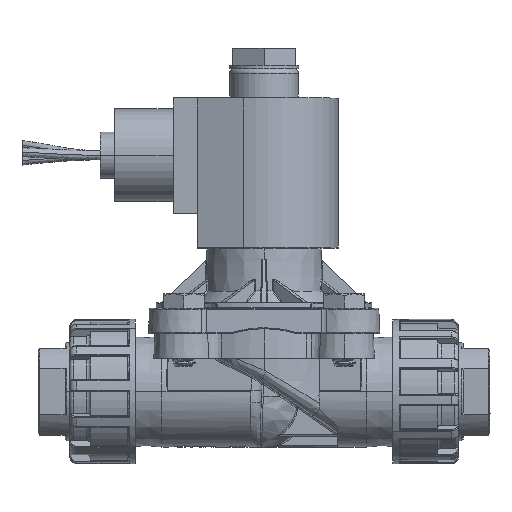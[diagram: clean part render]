
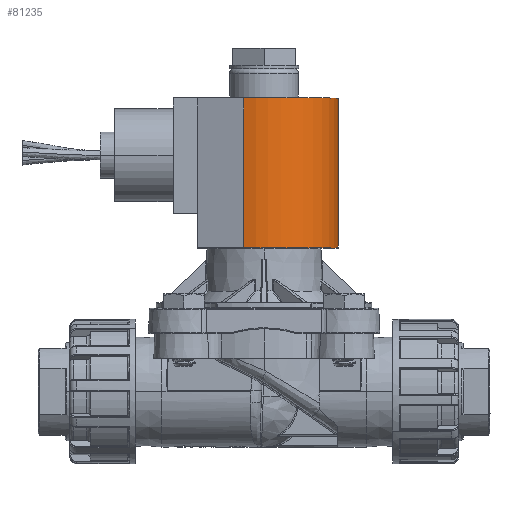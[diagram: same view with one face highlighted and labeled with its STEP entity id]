
A CAD part, top view. The second image highlights one B-rep face of the part: STEP entity #81235.
In plain terms, the highlighted cylindrical face has radius 20.32 mm (diameter 40.64 mm), a partial arc.
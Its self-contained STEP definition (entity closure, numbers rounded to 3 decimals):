
#1865 = CYLINDRICAL_SURFACE ( 'NONE', #83786, 20.32 ) ;
#15405 = VERTEX_POINT ( 'NONE', #102335 ) ;
#20391 = CARTESIAN_POINT ( 'NONE',  ( -5.608, 32.36, 19.531 ) ) ;
#20938 = VECTOR ( 'NONE', #121064, 1000. ) ;
#21469 = LINE ( 'NONE', #59014, #79648 ) ;
#24372 = ORIENTED_EDGE ( 'NONE', *, *, #90494, .T. ) ;
#27194 = DIRECTION ( 'NONE',  ( 0., 1., 0. ) ) ;
#28754 = CARTESIAN_POINT ( 'NONE',  ( -5.608, 73.508, 19.531 ) ) ;
#29236 = EDGE_CURVE ( 'NONE', #58485, #96644, #93342, .T. ) ;
#32490 = AXIS2_PLACEMENT_3D ( 'NONE', #111510, #27194, #66558 ) ;
#32933 = AXIS2_PLACEMENT_3D ( 'NONE', #64295, #64901, #37844 ) ;
#35087 = EDGE_CURVE ( 'NONE', #45284, #15405, #21469, .T. ) ;
#37844 = DIRECTION ( 'NONE',  ( -1., 0., 0. ) ) ;
#42916 = FACE_OUTER_BOUND ( 'NONE', #89869, .T. ) ;
#45284 = VERTEX_POINT ( 'NONE', #84930 ) ;
#47245 = ORIENTED_EDGE ( 'NONE', *, *, #29236, .T. ) ;
#48656 = CIRCLE ( 'NONE', #32933, 20.32 ) ;
#58485 = VERTEX_POINT ( 'NONE', #120046 ) ;
#59014 = CARTESIAN_POINT ( 'NONE',  ( 20.32, 73.508, 0. ) ) ;
#64295 = CARTESIAN_POINT ( 'NONE',  ( 0., 32.36, 0. ) ) ;
#64901 = DIRECTION ( 'NONE',  ( 0., 1., 0. ) ) ;
#66558 = DIRECTION ( 'NONE',  ( -1., 0., 0. ) ) ;
#68305 = DIRECTION ( 'NONE',  ( 1., 0., 0. ) ) ;
#68918 = CARTESIAN_POINT ( 'NONE',  ( 0., 73.508, 0. ) ) ;
#79648 = VECTOR ( 'NONE', #87933, 1000. ) ;
#80417 = DIRECTION ( 'NONE',  ( 0., -1., 0. ) ) ;
#81235 = ADVANCED_FACE ( 'Defeatured_0_1756', ( #42916 ), #1865, .T. ) ;
#83786 = AXIS2_PLACEMENT_3D ( 'NONE', #68918, #80417, #68305 ) ;
#84930 = CARTESIAN_POINT ( 'NONE',  ( 20.32, 73.508, 0. ) ) ;
#86276 = EDGE_CURVE ( 'NONE', #58485, #45284, #114961, .T. ) ;
#87933 = DIRECTION ( 'NONE',  ( 0., -1., 0. ) ) ;
#89869 = EDGE_LOOP ( 'NONE', ( #94823, #94368, #47245, #24372 ) ) ;
#90494 = EDGE_CURVE ( 'NONE', #96644, #15405, #48656, .T. ) ;
#93342 = LINE ( 'NONE', #28754, #20938 ) ;
#94368 = ORIENTED_EDGE ( 'NONE', *, *, #86276, .F. ) ;
#94823 = ORIENTED_EDGE ( 'NONE', *, *, #35087, .F. ) ;
#96644 = VERTEX_POINT ( 'NONE', #20391 ) ;
#102335 = CARTESIAN_POINT ( 'NONE',  ( 20.32, 32.36, 0. ) ) ;
#111510 = CARTESIAN_POINT ( 'NONE',  ( 0., 73.508, 0. ) ) ;
#114961 = CIRCLE ( 'NONE', #32490, 20.32 ) ;
#120046 = CARTESIAN_POINT ( 'NONE',  ( -5.608, 73.508, 19.531 ) ) ;
#121064 = DIRECTION ( 'NONE',  ( 0., -1., 0. ) ) ;
